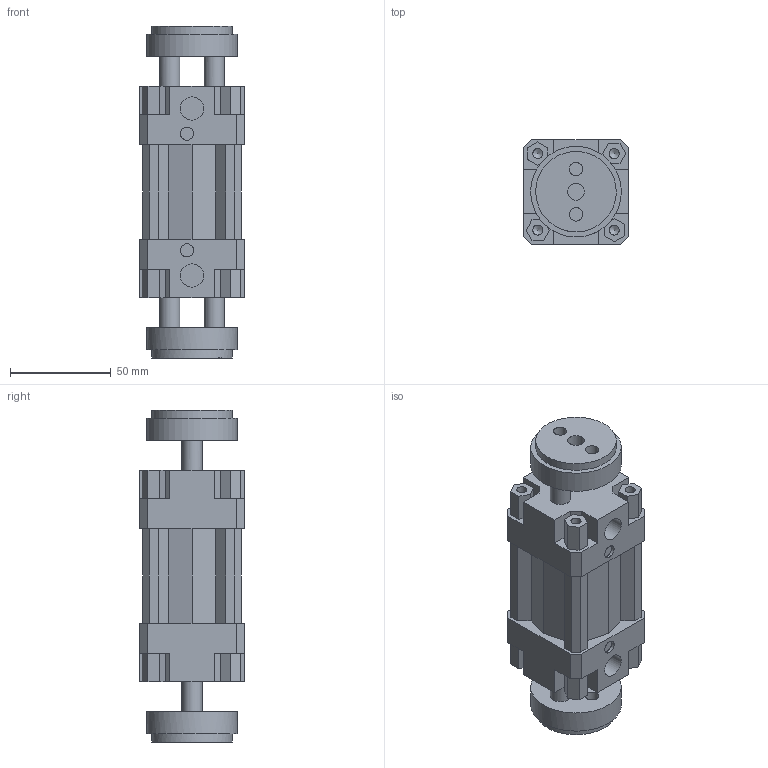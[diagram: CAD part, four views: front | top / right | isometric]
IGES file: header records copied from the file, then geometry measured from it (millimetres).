
Global section: file name: 132#_040_0000_06; native system: Autodesk Inventor 2014; preprocessor: unknown; author: A. Manieri; date: 20161006.154729; units: millimetre
Bounding box: 52 x 52 x 165 mm (x, y, z)
Volume: 274321.5 mm3; surface area: 71797.7 mm2
Topology: 2 solids, 2 shells, 190 faces, 518 edges, 354 vertices
Faces by surface type: bspline 190
